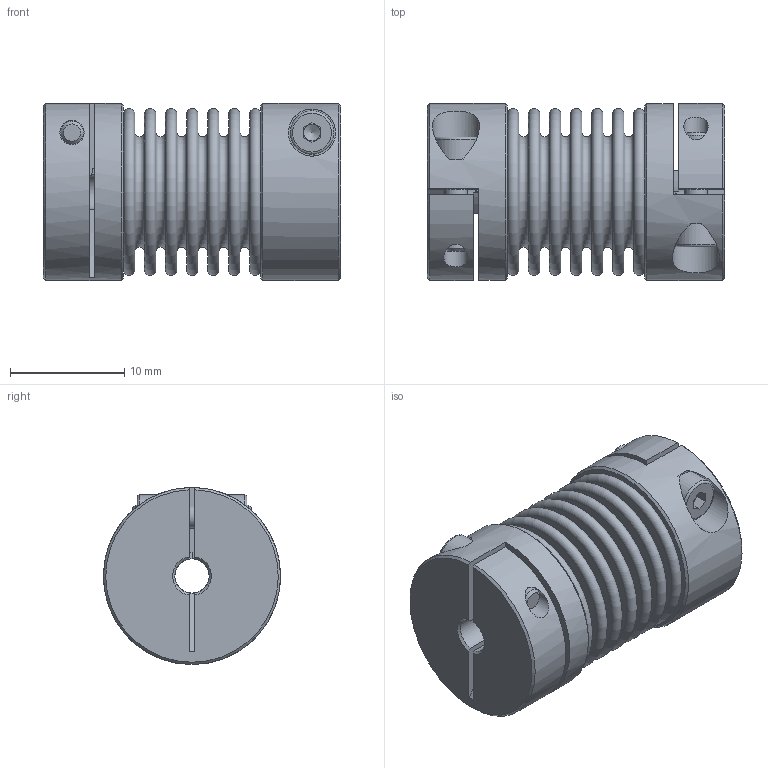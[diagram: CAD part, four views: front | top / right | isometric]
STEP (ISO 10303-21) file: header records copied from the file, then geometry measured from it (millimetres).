
FILE_DESCRIPTION(/* description */ ('STEP AP203'),/* implementation_level */ '2;1');
FILE_NAME(/* name */ 'KB2-10-26-3-3',/* time_stamp */ '2022-09-12T12:53:18+02:00',/* author */ ('License CC BY-ND 4.0'),/* organization */ ('CADENAS'),/* preprocessor_version */ 'ST-DEVELOPER v18.102',/* originating_system */ 'PARTsolutions',/* authorisation */ ' ');
FILE_SCHEMA (('CONFIG_CONTROL_DESIGN'));
Length unit declared in the file: millimetre
Products named in the file (1): KB2-10-26-3-3
Bounding box: 26 x 15.5 x 15.5 mm (x, y, z)
Volume: 2528.3 mm3; surface area: 5108.3 mm2
Topology: 1 solids, 1 shells, 132 faces, 275 edges, 183 vertices
Faces by surface type: plane 70, torus 28, cylinder 22, cone 12
Full cylindrical faces by diameter (mm): 2 x2, 2.126 x4, 3 x2, 3.8 x2, 10.46 x2, 15.5 x2
Entity records: 3332 total; most frequent: CARTESIAN_POINT 637, DIRECTION 578, ORIENTED_EDGE 432, AXIS2_PLACEMENT_3D 249, FACE_BOUND 226, EDGE_LOOP 224, EDGE_CURVE 216, VERTEX_POINT 174
